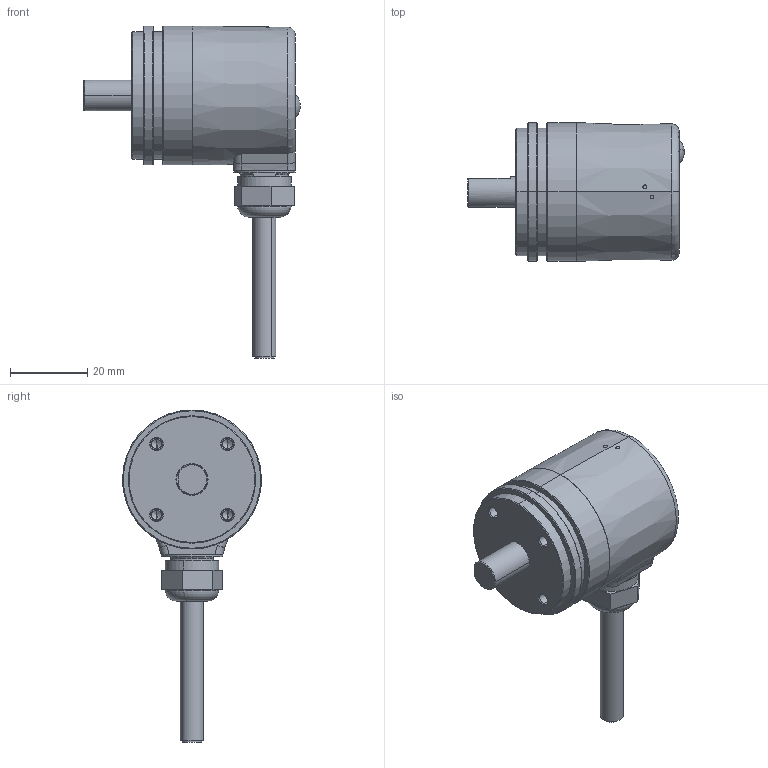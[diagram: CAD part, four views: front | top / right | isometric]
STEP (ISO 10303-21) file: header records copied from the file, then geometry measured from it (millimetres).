
FILE_DESCRIPTION (( 'STEP AP214' ), '1' );
FILE_NAME ('3651.26X2.XXXX.STEP', '2008-09-17T05:07:12', ( 'admin' ), ( 'Fritz Kübler GmbH' ), 'SwSTEP 2.0', 'SolidWorks 2008', '' );
FILE_SCHEMA (( 'AUTOMOTIVE_DESIGN' ));
Length unit declared in the file: millimetre
Products named in the file (1): 3651.26X2.XXXX
Bounding box: 56.09 x 36 x 86 mm (x, y, z)
Volume: 23553.5 mm3; surface area: 21811 mm2
Topology: 8 solids, 8 shells, 493 faces, 1095 edges, 652 vertices
Faces by surface type: cylinder 173, cone 129, plane 112, torus 66, bspline 7, sphere 6
Entity records: 19657 total; most frequent: CARTESIAN_POINT 3056, DIRECTION 2560, ORIENTED_EDGE 2146, AXIS2_PLACEMENT_3D 1091, EDGE_CURVE 1073, VERTEX_POINT 652, CIRCLE 604, EDGE_LOOP 559
